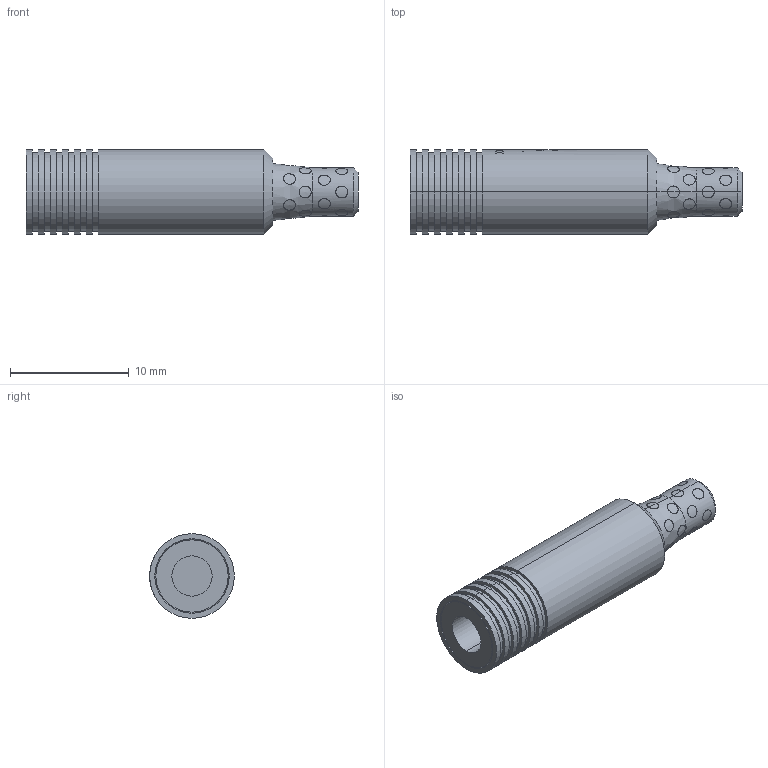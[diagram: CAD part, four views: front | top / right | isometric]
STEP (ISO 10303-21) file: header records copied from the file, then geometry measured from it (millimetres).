
FILE_DESCRIPTION (( 'STEP AP214' ), '1' );
FILE_NAME ('JEKA281---.STEP', '2021-04-01T13:20:44', ( 'TLC' ), ( 'Microsoft' ), 'SwSTEP 2.0', 'SolidWorks 2017', '' );
FILE_SCHEMA (( 'AUTOMOTIVE_DESIGN' ));
Length unit declared in the file: inch
Products named in the file (1): JEKA281---
Bounding box: 28.02 x 7.14 x 7.14 mm (x, y, z)
Volume: 857.6 mm3; surface area: 767.4 mm2
Topology: 1 solids, 1 shells, 373 faces, 906 edges, 596 vertices
Faces by surface type: bspline 164, plane 110, cylinder 74, cone 25
Entity records: 21071 total; most frequent: CARTESIAN_POINT 9590, ORIENTED_EDGE 1812, DIRECTION 1008, EDGE_CURVE 906, VERTEX_POINT 596, B_SPLINE_CURVE_WITH_KNOTS 538, EDGE_LOOP 434, AXIS2_PLACEMENT_3D 430
